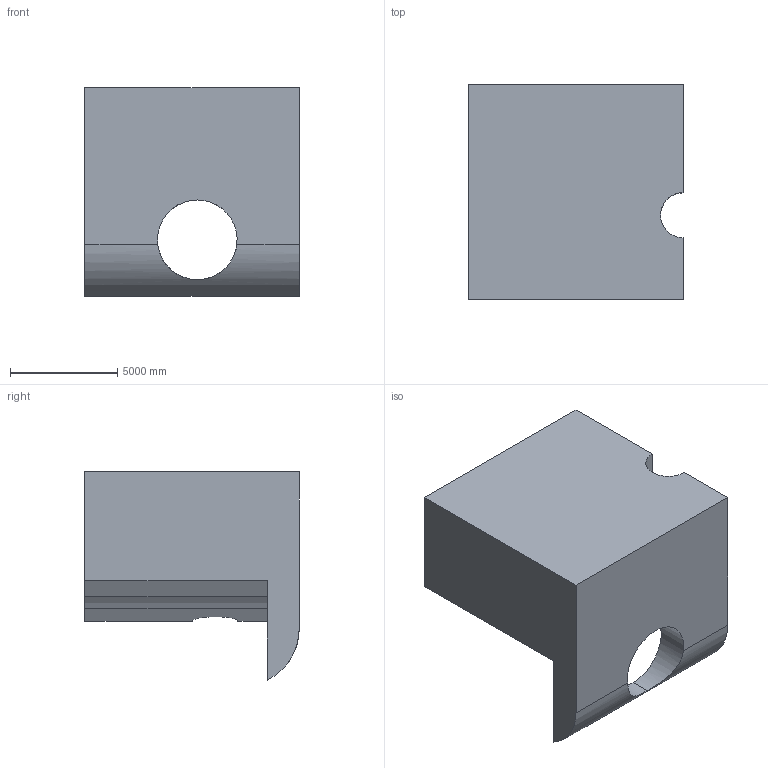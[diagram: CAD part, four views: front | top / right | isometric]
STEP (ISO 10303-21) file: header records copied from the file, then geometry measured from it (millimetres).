
FILE_DESCRIPTION (( 'STEP AP203' ), '1' );
FILE_NAME ('1386.STEP', '2022-08-18T14:10:36', ( 'user' ), ( '' ), 'SwSTEP 2.0', 'SolidWorks 2021', '' );
FILE_SCHEMA (( 'CONFIG_CONTROL_DESIGN' ));
Length unit declared in the file: centimetre
Products named in the file (1): 1386
Bounding box: 10000 x 10000 x 9711.98 mm (x, y, z)
Volume: 603042042592.5 mm3; surface area: 519250755.9 mm2
Topology: 1 solids, 1 shells, 13 faces, 39 edges, 26 vertices
Faces by surface type: plane 9, cylinder 4
Entity records: 692 total; most frequent: CARTESIAN_POINT 255, ORIENTED_EDGE 78, DIRECTION 73, EDGE_CURVE 39, VECTOR 27, LINE 27, VERTEX_POINT 26, AXIS2_PLACEMENT_3D 23
